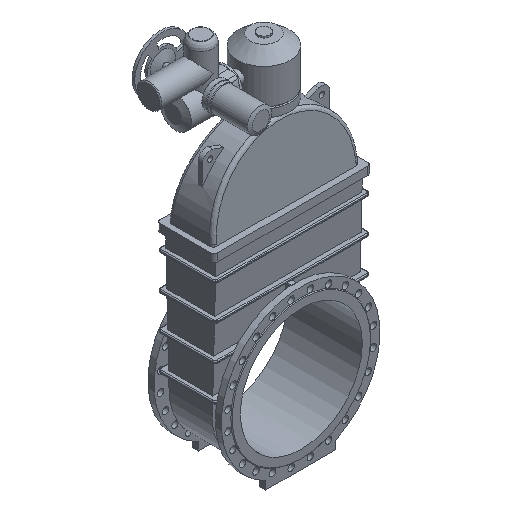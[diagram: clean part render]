
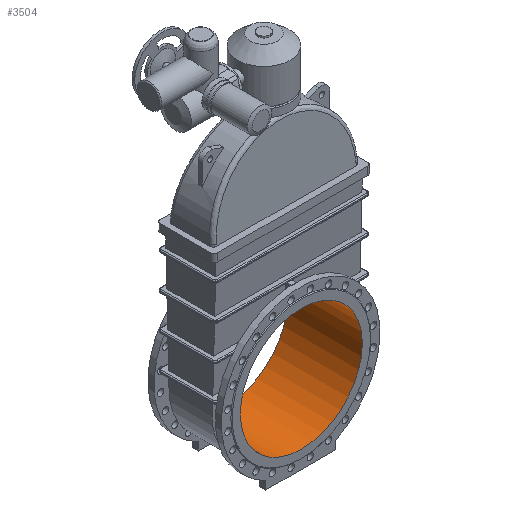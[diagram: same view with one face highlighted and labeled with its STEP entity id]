
A CAD part, isometric view. The second image highlights one B-rep face of the part: STEP entity #3504.
In plain terms, the highlighted cylindrical face has radius 350 mm (diameter 700 mm), a full revolution.
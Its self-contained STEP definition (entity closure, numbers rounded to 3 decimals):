
#3504=ADVANCED_FACE('',(#9513,#9515),#9517,.F.);
#9513=FACE_OUTER_BOUND('',#9514,.T.);
#9514=EDGE_LOOP('',(#11156));
#9515=FACE_OUTER_BOUND('',#9516,.T.);
#9516=EDGE_LOOP('',(#11157));
#9517=CYLINDRICAL_SURFACE('',#9518,350.);
#9518=AXIS2_PLACEMENT_3D('',#9519,#9520,#9521);
#9519=CARTESIAN_POINT('',(0.,215.,0.));
#9520=DIRECTION('',(0.,1.,0.));
#9521=DIRECTION('',(0.,0.,1.));
#11156=ORIENTED_EDGE('',*,*,#11975,.T.);
#11157=ORIENTED_EDGE('',*,*,#11974,.F.);
#11974=EDGE_CURVE('',#13378,#13378,#13379,.T.);
#11975=EDGE_CURVE('',#13380,#13380,#13381,.T.);
#13378=VERTEX_POINT('',#18700);
#13379=CIRCLE('',#18701,350.);
#13380=VERTEX_POINT('',#18705);
#13381=CIRCLE('',#18706,350.);
#18700=CARTESIAN_POINT('',(0.,-215.,350.));
#18701=AXIS2_PLACEMENT_3D('',#18702,#18703,#18704);
#18702=CARTESIAN_POINT('',(0.,-215.,0.));
#18703=DIRECTION('',(0.,1.,0.));
#18704=DIRECTION('',(0.,0.,1.));
#18705=CARTESIAN_POINT('',(0.,215.,350.));
#18706=AXIS2_PLACEMENT_3D('',#18707,#18708,#18709);
#18707=CARTESIAN_POINT('',(0.,215.,0.));
#18708=DIRECTION('',(0.,1.,0.));
#18709=DIRECTION('',(0.,0.,1.));
